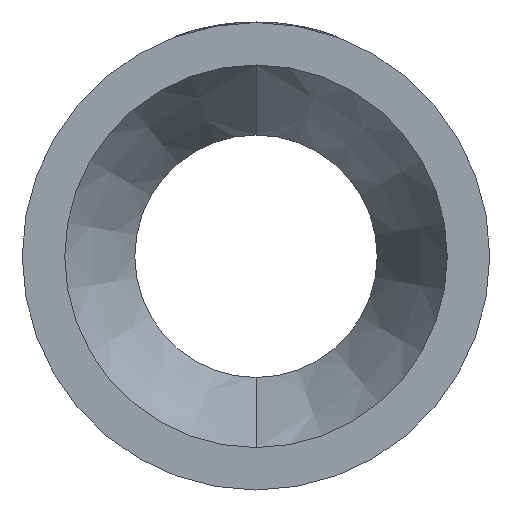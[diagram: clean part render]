
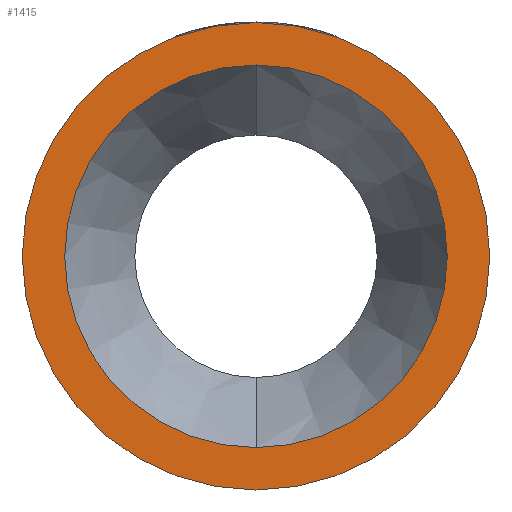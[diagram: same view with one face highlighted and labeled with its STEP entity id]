
A CAD part, left-side view. The second image highlights one B-rep face of the part: STEP entity #1415.
In plain terms, the highlighted planar face has unit normal (-1, 0, 0).
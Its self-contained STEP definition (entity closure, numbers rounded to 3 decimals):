
#100 = CIRCLE ( 'NONE', #3020, 200. ) ;
#144 = EDGE_LOOP ( 'NONE', ( #2106, #3271 ) ) ;
#356 = FACE_BOUND ( 'NONE', #1566, .T. ) ;
#412 = VERTEX_POINT ( 'NONE', #3329 ) ;
#415 = EDGE_CURVE ( 'NONE', #412, #519, #100, .T. ) ;
#519 = VERTEX_POINT ( 'NONE', #2904 ) ;
#537 = EDGE_CURVE ( 'NONE', #2169, #847, #3715, .T. ) ;
#566 = AXIS2_PLACEMENT_3D ( 'NONE', #1433, #1424, #1421 ) ;
#706 = CARTESIAN_POINT ( 'NONE',  ( 0., 0., -163.7 ) ) ;
#813 = EDGE_CURVE ( 'NONE', #847, #2169, #3259, .T. ) ;
#847 = VERTEX_POINT ( 'NONE', #1670 ) ;
#1032 = CIRCLE ( 'NONE', #2462, 200. ) ;
#1390 = ORIENTED_EDGE ( 'NONE', *, *, #537, .F. ) ;
#1415 = ADVANCED_FACE ( 'NONE', ( #356, #3605 ), #1564, .F. ) ;
#1421 = DIRECTION ( 'NONE',  ( 0., 0., -1. ) ) ;
#1424 = DIRECTION ( 'NONE',  ( 1., 0., 0. ) ) ;
#1433 = CARTESIAN_POINT ( 'NONE',  ( 0., 163.7, 0. ) ) ;
#1509 = DIRECTION ( 'NONE',  ( 0., 0., 1. ) ) ;
#1515 = DIRECTION ( 'NONE',  ( -1., 0., 0. ) ) ;
#1530 = CARTESIAN_POINT ( 'NONE',  ( 0., 0., 0. ) ) ;
#1535 = DIRECTION ( 'NONE',  ( 0., 0., 1. ) ) ;
#1564 = PLANE ( 'NONE',  #566 ) ;
#1566 = EDGE_LOOP ( 'NONE', ( #3680, #1390 ) ) ;
#1650 = EDGE_CURVE ( 'NONE', #519, #412, #1032, .T. ) ;
#1670 = CARTESIAN_POINT ( 'NONE',  ( 0., 0., 163.7 ) ) ;
#1777 = DIRECTION ( 'NONE',  ( -1., 0., 0. ) ) ;
#1787 = CARTESIAN_POINT ( 'NONE',  ( 0., 0., 0. ) ) ;
#2106 = ORIENTED_EDGE ( 'NONE', *, *, #415, .T. ) ;
#2169 = VERTEX_POINT ( 'NONE', #706 ) ;
#2382 = AXIS2_PLACEMENT_3D ( 'NONE', #1787, #1777, #1535 ) ;
#2462 = AXIS2_PLACEMENT_3D ( 'NONE', #1530, #1515, #1509 ) ;
#2735 = DIRECTION ( 'NONE',  ( 0., 0., 1. ) ) ;
#2741 = DIRECTION ( 'NONE',  ( -1., 0., 0. ) ) ;
#2749 = CARTESIAN_POINT ( 'NONE',  ( 0., 0., 0. ) ) ;
#2904 = CARTESIAN_POINT ( 'NONE',  ( 0., 0., -200. ) ) ;
#2921 = AXIS2_PLACEMENT_3D ( 'NONE', #2749, #2741, #2735 ) ;
#3020 = AXIS2_PLACEMENT_3D ( 'NONE', #3286, #3277, #3273 ) ;
#3259 = CIRCLE ( 'NONE', #2382, 163.7 ) ;
#3271 = ORIENTED_EDGE ( 'NONE', *, *, #1650, .T. ) ;
#3273 = DIRECTION ( 'NONE',  ( 0., 0., 1. ) ) ;
#3277 = DIRECTION ( 'NONE',  ( -1., 0., 0. ) ) ;
#3286 = CARTESIAN_POINT ( 'NONE',  ( 0., 0., 0. ) ) ;
#3329 = CARTESIAN_POINT ( 'NONE',  ( 0., 0., 200. ) ) ;
#3605 = FACE_OUTER_BOUND ( 'NONE', #144, .T. ) ;
#3680 = ORIENTED_EDGE ( 'NONE', *, *, #813, .F. ) ;
#3715 = CIRCLE ( 'NONE', #2921, 163.7 ) ;
